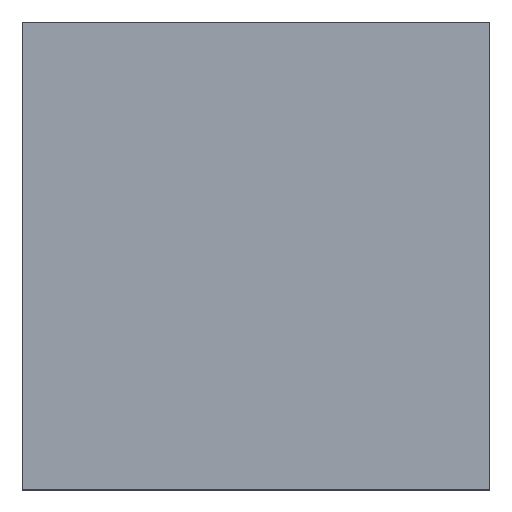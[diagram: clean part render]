
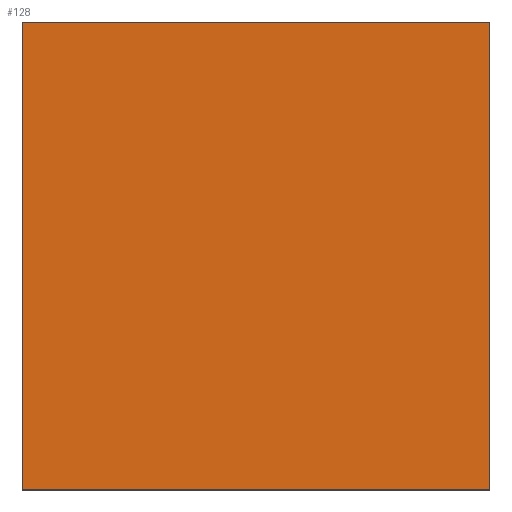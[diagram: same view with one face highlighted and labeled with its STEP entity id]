
A CAD part, top view. The second image highlights one B-rep face of the part: STEP entity #128.
In plain terms, the highlighted planar face has unit normal (0, 0, 1).
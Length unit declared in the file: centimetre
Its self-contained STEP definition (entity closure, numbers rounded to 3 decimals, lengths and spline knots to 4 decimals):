
#66 = CARTESIAN_POINT ( 'NONE',  ( 0., 0., 1000. ) ) ;
#128 = ADVANCED_FACE ( 'NONE', ( #410 ), #1217, .T. ) ;
#162 = DIRECTION ( 'NONE',  ( 1., 0., 0. ) ) ;
#174 = EDGE_LOOP ( 'NONE', ( #565, #428, #1057, #599 ) ) ;
#234 = LINE ( 'NONE', #463, #1290 ) ;
#241 = AXIS2_PLACEMENT_3D ( 'NONE', #1223, #292, #162 ) ;
#262 = LINE ( 'NONE', #984, #530 ) ;
#292 = DIRECTION ( 'NONE',  ( 0., 0., 1. ) ) ;
#332 = DIRECTION ( 'NONE',  ( 1., 0., 0. ) ) ;
#360 = VECTOR ( 'NONE', #332, 100. ) ;
#380 = EDGE_CURVE ( 'NONE', #1023, #643, #749, .T. ) ;
#410 = FACE_OUTER_BOUND ( 'NONE', #174, .T. ) ;
#411 = CARTESIAN_POINT ( 'NONE',  ( 0., 1000., 1000. ) ) ;
#412 = VECTOR ( 'NONE', #828, 100. ) ;
#422 = EDGE_CURVE ( 'NONE', #1063, #1023, #234, .T. ) ;
#428 = ORIENTED_EDGE ( 'NONE', *, *, #380, .T. ) ;
#433 = CARTESIAN_POINT ( 'NONE',  ( 1000., 0., 1000. ) ) ;
#459 = CARTESIAN_POINT ( 'NONE',  ( 1000., 1000., 1000. ) ) ;
#463 = CARTESIAN_POINT ( 'NONE',  ( 0., 1000., 1000. ) ) ;
#530 = VECTOR ( 'NONE', #1302, 100. ) ;
#532 = CARTESIAN_POINT ( 'NONE',  ( 0., 0., 1000. ) ) ;
#553 = VERTEX_POINT ( 'NONE', #459 ) ;
#565 = ORIENTED_EDGE ( 'NONE', *, *, #422, .T. ) ;
#599 = ORIENTED_EDGE ( 'NONE', *, *, #836, .T. ) ;
#643 = VERTEX_POINT ( 'NONE', #433 ) ;
#713 = LINE ( 'NONE', #411, #412 ) ;
#749 = LINE ( 'NONE', #532, #360 ) ;
#828 = DIRECTION ( 'NONE',  ( -1., 0., 0. ) ) ;
#836 = EDGE_CURVE ( 'NONE', #553, #1063, #713, .T. ) ;
#923 = CARTESIAN_POINT ( 'NONE',  ( 0., 1000., 1000. ) ) ;
#984 = CARTESIAN_POINT ( 'NONE',  ( 1000., 1000., 1000. ) ) ;
#1017 = EDGE_CURVE ( 'NONE', #643, #553, #262, .T. ) ;
#1023 = VERTEX_POINT ( 'NONE', #66 ) ;
#1057 = ORIENTED_EDGE ( 'NONE', *, *, #1017, .T. ) ;
#1063 = VERTEX_POINT ( 'NONE', #923 ) ;
#1217 = PLANE ( 'NONE',  #241 ) ;
#1223 = CARTESIAN_POINT ( 'NONE',  ( 0., 0., 1000. ) ) ;
#1263 = DIRECTION ( 'NONE',  ( 0., -1., 0. ) ) ;
#1290 = VECTOR ( 'NONE', #1263, 100. ) ;
#1302 = DIRECTION ( 'NONE',  ( 0., 1., 0. ) ) ;
